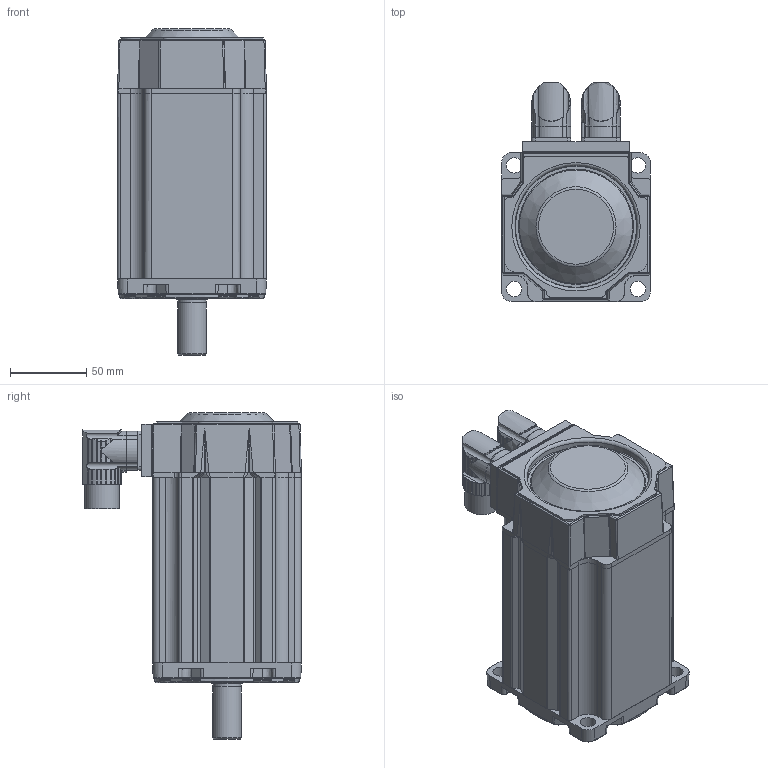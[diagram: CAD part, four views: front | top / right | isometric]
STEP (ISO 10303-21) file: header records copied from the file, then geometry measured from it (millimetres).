
FILE_DESCRIPTION((''),'2;1');
FILE_NAME('C:\CAD_work\Dummy_Modeling_Project_02-12-05\3D MODELS\MPP1003XXX_NPSN.stp','2005-12-20T17:05:14',('jevans'),(''),'Autodesk Inventor 10','Autodesk Inventor 10','');
FILE_SCHEMA(('AUTOMOTIVE_DESIGN { 1 0 10303 214 1 1 1 1 }'));
Length unit declared in the file: inch
Products named in the file (1): MPP100_MOTOR
Bounding box: 97.79 x 143.77 x 214.33 mm (x, y, z)
Volume: 1463114.5 mm3; surface area: 131456.1 mm2
Topology: 4 solids, 4 shells, 1043 faces, 2680 edges, 1680 vertices
Faces by surface type: bspline 341, cylinder 338, plane 258, cone 77, torus 21, sphere 8
Full cylindrical faces by diameter (mm): 1.016 x17, 1.956 x6, 2.362 x2, 18.644 x1, 18.999 x1, 19.05 x1, 19.66 x1, 19.939 x1, 19.99 x1, 22.86 x1, 25.4 x1, 40.005 x1, 51.511 x1, 51.994 x1, 52.019 x1, 52.261 x1, 55.143 x1, 60.325 x1, 80.366 x1
Entity records: 41628 total; most frequent: CARTESIAN_POINT 18595, ORIENTED_EDGE 5134, DIRECTION 4189, EDGE_CURVE 2567, VERTEX_POINT 1656, AXIS2_PLACEMENT_3D 1629, EDGE_LOOP 1193, FACE_OUTER_BOUND 1043
